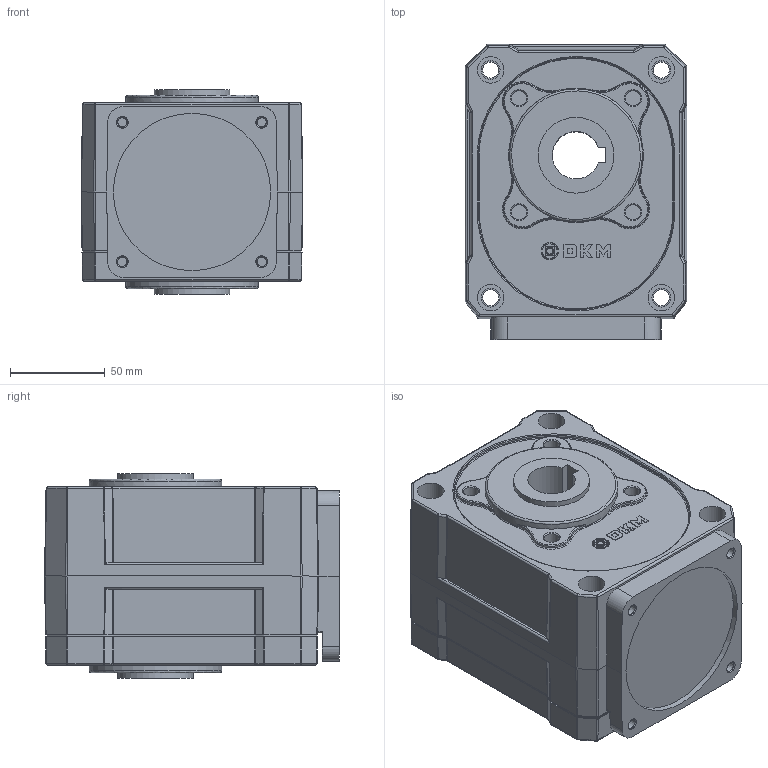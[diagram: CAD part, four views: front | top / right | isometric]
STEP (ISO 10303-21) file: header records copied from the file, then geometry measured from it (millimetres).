
FILE_DESCRIPTION (( 'STEP AP203' ), '1' );
FILE_NAME ('090S 橫撬綰葬.STEP', '2020-04-21T00:37:43', ( '' ), ( '' ), 'SwSTEP 2.0', 'SolidWorks 2012', '' );
FILE_SCHEMA (( 'CONFIG_CONTROL_DESIGN' ));
Length unit declared in the file: millimetre
Products named in the file (4): 090S 橫撬綰葬; 9HCS; 090S-COVER; 090S-CASE
Assembly tree (3 placements, depth 2):
  090S 橫撬綰葬
    090S-CASE
    090S-COVER
    9HCS
Bounding box: 117 x 155.5 x 108 mm (x, y, z)
Volume: 1474238.7 mm3; surface area: 180913.9 mm2
Topology: 3 solids, 7 shells, 730 faces, 1738 edges, 1068 vertices
Faces by surface type: plane 284, cylinder 203, bspline 191, cone 40, sphere 8, torus 4
Full cylindrical faces by diameter (mm): 3.237 x2, 4.271 x2, 6 x4, 8 x4, 8.5 x4, 10 x8, 14 x8, 40 x3, 83 x1
Entity records: 26386 total; most frequent: CARTESIAN_POINT 10766, ORIENTED_EDGE 3270, DIRECTION 2817, EDGE_CURVE 1635, VERTEX_POINT 1040, AXIS2_PLACEMENT_3D 994, EDGE_LOOP 885, LINE 829
